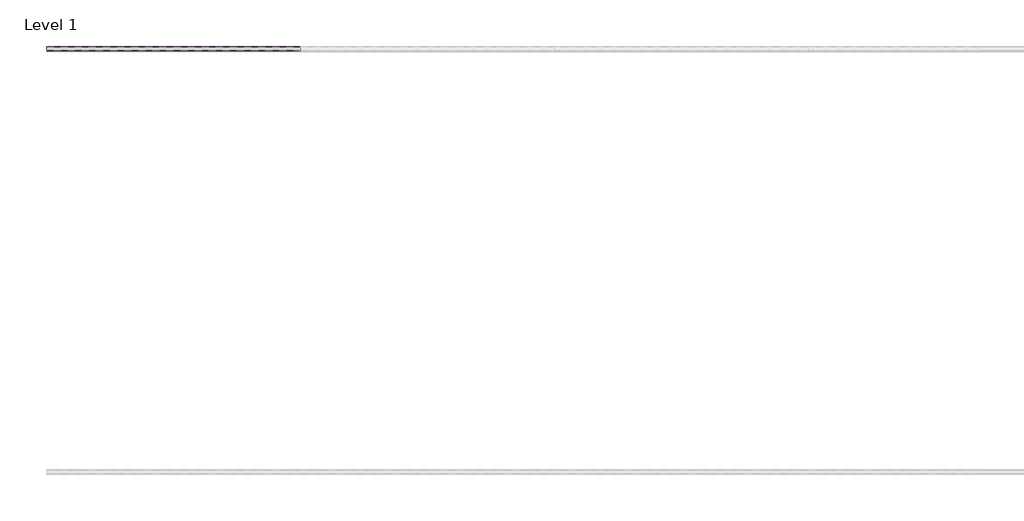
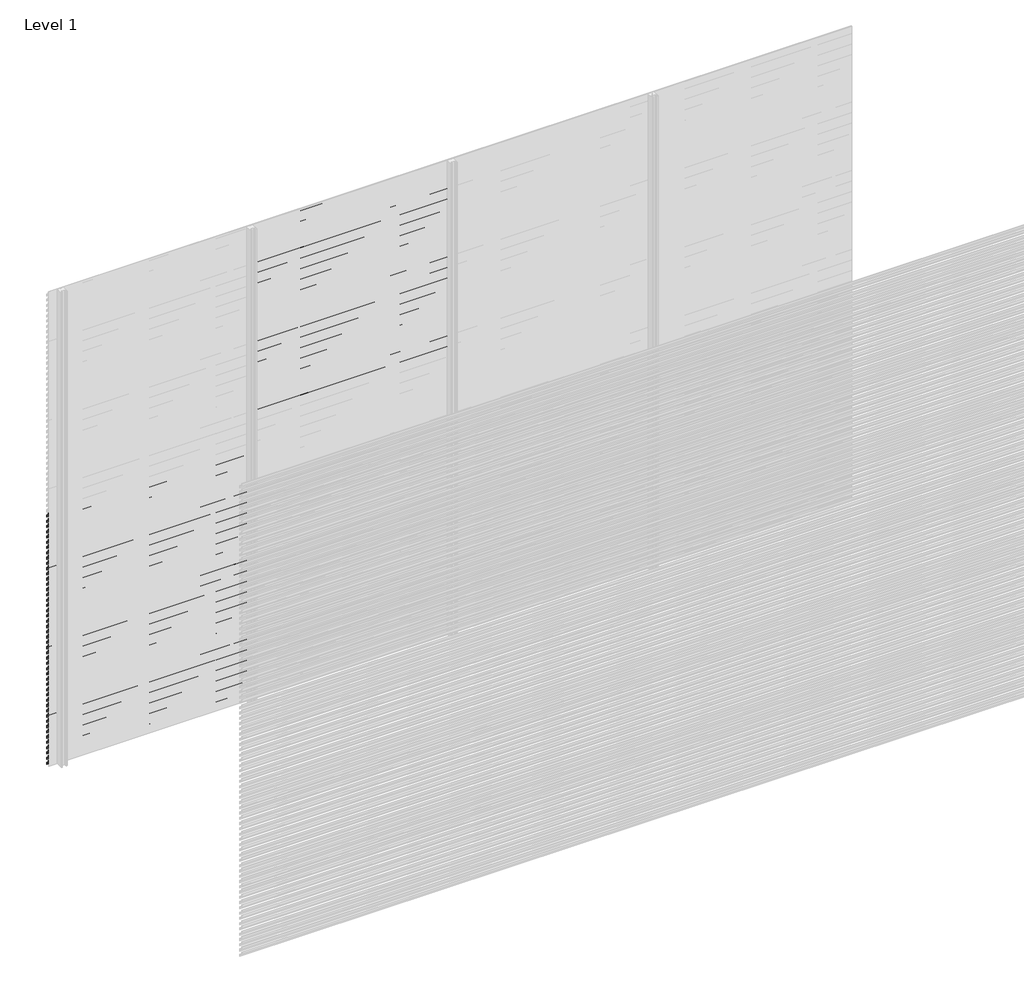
# One storey, part 75 of 507: 84 proxies.
"""IFC4 building model written with IfcOpenShell, lengths in millimetres."""

import ifcopenshell
import ifcopenshell.guid

model = None  # the IFC model being written
_history = None  # IfcOwnerHistory: only IFC2X3 demands one
_inside = {}  # id of a spatial element -> (the spatial element, [elements in it])
_under = {}  # id of a project, library or spatial element -> (it, [spatial elements below it])
_declared = {}  # id of a project -> (the project, [libraries it declares])
_typed = {}  # id of a type object -> (the type object, [elements of that type])
_made_of = {}  # id of a material, layer set ... -> (it, [elements and type objects made of it])


def new_model(schema):
    """Start an empty IFC model of exactly this schema.

    Asked for "IFC4X3", IfcOpenShell would pick the latest addendum, in which some entities
    have other attributes; the version numbers below select the first issue.
    IFC2X3 requires an IfcOwnerHistory on every rooted entity: one is made here for all.
    """
    global model, _history
    if schema == "IFC4X3":
        model = ifcopenshell.file(schema_version=(4, 3, 0, 0))
    else:
        model = ifcopenshell.file(schema=schema)
    _inside.clear()
    _under.clear()
    _declared.clear()
    _typed.clear()
    _made_of.clear()
    _history = None
    if model.schema == "IFC2X3":
        org = make("IfcOrganization", Name="unknown")
        user = make(
            "IfcPersonAndOrganization",
            ThePerson=make("IfcPerson", FamilyName="unknown"),
            TheOrganization=org,
        )
        app = make(
            "IfcApplication",
            ApplicationDeveloper=org,
            Version="unknown",
            ApplicationFullName="unknown",
            ApplicationIdentifier="unknown",
        )
        _history = make(
            "IfcOwnerHistory",
            OwningUser=user,
            OwningApplication=app,
            ChangeAction="ADDED",
            CreationDate=0,
        )
    return model


def make(cls, **values):
    """One entity of the class cls with the attributes given. An attribute that is None is left unset."""
    return model.create_entity(
        cls, **{name: value for name, value in values.items() if value is not None}
    )


def rooted(cls, **values):
    """An entity with a GlobalId (a new one), such as an element, a storey or a relation."""
    return make(cls, GlobalId=ifcopenshell.guid.new(), OwnerHistory=_history, **values)


def si_unit(unit_type, name, prefix=None):
    """IfcSIUnit, for example si_unit("LENGTHUNIT", "METRE", prefix="MILLI")."""
    return make("IfcSIUnit", UnitType=unit_type, Prefix=prefix, Name=name)


def assignment(units):
    """IfcUnitAssignment: the units of a project."""
    return None if units is None else make("IfcUnitAssignment", Units=units)


def point(xyz):
    """IfcCartesianPoint."""
    return None if xyz is None else make("IfcCartesianPoint", Coordinates=xyz)


def direction(xyz):
    """IfcDirection."""
    return None if xyz is None else make("IfcDirection", DirectionRatios=xyz)


def frame(location, z_axis=None, x_axis=None):
    """IfcAxis2Placement3D, a coordinate frame: its origin and axes. An axis left out is left unset."""
    return make(
        "IfcAxis2Placement3D",
        Location=point(location),
        Axis=direction(z_axis),
        RefDirection=direction(x_axis),
    )


def origin():
    """The frame at (0, 0, 0) with its axes left unset."""
    return frame((0.0, 0.0, 0.0))


def place(relative_to, where):
    """IfcLocalPlacement: puts the frame where relative to a parent placement (None: the world)."""
    return make(
        "IfcLocalPlacement", PlacementRelTo=relative_to, RelativePlacement=where
    )


def context(
    kind, dimensions, precision=None, world=None, true_north=None, identifier=None
):
    """IfcGeometricRepresentationContext, for example the 3D "Model" context."""
    return make(
        "IfcGeometricRepresentationContext",
        ContextIdentifier=identifier,
        ContextType=kind,
        CoordinateSpaceDimension=dimensions,
        Precision=precision,
        WorldCoordinateSystem=world,
        TrueNorth=true_north,
    )


def project(units=None, contexts=None):
    """IfcProject with its units and contexts."""
    return rooted(
        "IfcProject",
        Name="project",
        RepresentationContexts=contexts,
        UnitsInContext=assignment(units),
    )


def spatial(cls, under=None, at=None, **own):
    """A site, building, storey or space (cls), placed at a placement, below another one or the project."""
    s = rooted(cls, ObjectPlacement=at, **own)
    if under is not None:
        _under.setdefault(under.id(), (under, []))[1].append(s)
    return s


def polyline(points):
    """IfcPolyline through the points."""
    return make("IfcPolyline", Points=[point(p) for p in points])


def outline(outer, holes=None, kind="AREA"):
    """IfcArbitraryClosedProfileDef: a profile drawn as a closed curve; with holes, ...WithVoids."""
    if holes is None:
        return make("IfcArbitraryClosedProfileDef", ProfileType=kind, OuterCurve=outer)
    return make(
        "IfcArbitraryProfileDefWithVoids",
        ProfileType=kind,
        OuterCurve=outer,
        InnerCurves=holes,
    )


def extrude(swept, where, along, depth):
    """IfcExtrudedAreaSolid: the profile swept, set in the frame where, extruded along a direction by depth."""
    return make(
        "IfcExtrudedAreaSolid",
        SweptArea=swept,
        Position=where,
        ExtrudedDirection=direction(along),
        Depth=depth,
    )


def shape(context_of_items, identifier, shape_type, items):
    """IfcShapeRepresentation: the items that make up one representation, for example the "Body"."""
    return make(
        "IfcShapeRepresentation",
        ContextOfItems=context_of_items,
        RepresentationIdentifier=identifier,
        RepresentationType=shape_type,
        Items=items,
    )


def made_of(thing, what):
    """Note that an element or type object is made of a material, layer set ...; save() writes the relation."""
    if what is not None:
        _made_of.setdefault(what.id(), (what, []))[1].append(thing)
    return thing


def element(
    cls,
    number,
    at=None,
    inside=None,
    cuts=None,
    type_object=None,
    material=None,
    context=None,
    identifier="Body",
    shape_type=None,
    held_by="IfcProductDefinitionShape",
    body=None,
    shapes=None,
    **own,
):
    """One element of the class cls, such as IfcWall. Its Tag is "e" and its number.

    at: its placement. inside: the storey or other place that contains it. cuts: it is an
    opening in that element (IfcRelVoidsElement). A single representation is given by context,
    identifier, shape_type and body (its items); several are given by shapes. held_by: the class
    of the entity that holds the representations. save() writes the other relations.
    """
    e = rooted(cls, Tag="e%d" % number, ObjectPlacement=at, **own)
    if body is not None:
        shapes = [shape(context, identifier, shape_type, body)]
    if shapes is not None:
        e.Representation = make(held_by, Representations=shapes)
    if inside is not None:
        _inside.setdefault(inside.id(), (inside, []))[1].append(e)
    if cuts is not None:
        rooted(
            "IfcRelVoidsElement", RelatingBuildingElement=cuts, RelatedOpeningElement=e
        )
    if type_object is not None:
        _typed.setdefault(type_object.id(), (type_object, []))[1].append(e)
    return made_of(e, material)


def aggregate(whole, parts):
    """IfcRelAggregates: a whole, such as a stair, and the parts it consists of."""
    return rooted("IfcRelAggregates", RelatingObject=whole, RelatedObjects=parts)


def save(model, path):
    """Write the relations noted so far, then the file.

    IfcRelAggregates (storeys below a building ...), IfcRelContainedInSpatialStructure (elements
    in a storey), IfcRelDefinesByType, IfcRelAssociatesMaterial and IfcRelDeclares: one each for
    every whole, place, type object, material and project.
    """
    for whole, parts in _under.values():
        aggregate(whole, parts)
    for where, things in _inside.values():
        rooted(
            "IfcRelContainedInSpatialStructure",
            RelatedElements=things,
            RelatingStructure=where,
        )
    for kind, things in _typed.values():
        rooted("IfcRelDefinesByType", RelatedObjects=things, RelatingType=kind)
    for what, things in _made_of.values():
        rooted("IfcRelAssociatesMaterial", RelatedObjects=things, RelatingMaterial=what)
    for by, libraries in _declared.values():
        rooted("IfcRelDeclares", RelatingContext=by, RelatedDefinitions=libraries)
    model.write(path)


model = new_model("IFC4")

# Units and contexts
model_context = context("Model", 3, world=origin())
ifc_project = project(units=[si_unit("LENGTHUNIT", "METRE", prefix="MILLI")], contexts=[model_context])

# Site, building, storey
site = spatial("IfcSite", under=ifc_project)
building = spatial("IfcBuilding", under=site)
storey = spatial("IfcBuildingStorey", under=building, Name="Level 1", Elevation=0.0)

# Proxies
placement = place(None, origin())
element("IfcBuildingElementProxy", 1, Name="Wall Sweeps", at=placement, inside=storey, context=model_context, shape_type="SweptSolid", body=[
    extrude(outline(polyline([(59003.4540136, 1574.4), (59003.4540136, 1560.9), (59002.2040136, 1561.6216933), (59002.2040136, 1573.6782281), (58983.0540136, 1584.7345698), (58983.0540136, 1598.4), (58984.3040136, 1598.4), (58984.3040136, 1585.4562577), (59003.4540136, 1574.4)])), frame((44966.6208097, 0.0, 0.0), z_axis=(1.0, 0.0, 0.0), x_axis=(0.0, 1.0, 0.0)), (0.0, 0.0, 1.0), 1200.0000002),
])
element("IfcBuildingElementProxy", 2, Name="Wall Sweeps", at=placement, inside=storey, context=model_context, shape_type="SweptSolid", body=[
    extrude(outline(polyline([(59003.4540136, 1541.1), (59003.4540136, 1527.6), (59002.2040136, 1528.3216933), (59002.2040136, 1540.3782281), (58983.0540136, 1551.4345698), (58983.0540136, 1565.1), (58984.3040136, 1565.1), (58984.3040136, 1552.1562577), (59003.4540136, 1541.1)])), frame((44966.6208097, 0.0, 0.0), z_axis=(1.0, 0.0, 0.0), x_axis=(0.0, 1.0, 0.0)), (0.0, 0.0, 1.0), 1200.0000002),
])
element("IfcBuildingElementProxy", 3, Name="Wall Sweeps", at=placement, inside=storey, context=model_context, shape_type="SweptSolid", body=[
    extrude(outline(polyline([(59003.4540136, 1507.8), (59003.4540136, 1494.3), (59002.2040136, 1495.0216933), (59002.2040136, 1507.0782281), (58983.0540136, 1518.1345698), (58983.0540136, 1531.8), (58984.3040136, 1531.8), (58984.3040136, 1518.8562577), (59003.4540136, 1507.8)])), frame((44966.6208097, 0.0, 0.0), z_axis=(1.0, 0.0, 0.0), x_axis=(0.0, 1.0, 0.0)), (0.0, 0.0, 1.0), 1200.0000002),
])
element("IfcBuildingElementProxy", 4, Name="Wall Sweeps", at=placement, inside=storey, context=model_context, shape_type="SweptSolid", body=[
    extrude(outline(polyline([(59003.4540136, 1474.5), (59003.4540136, 1461.0), (59002.2040136, 1461.7216933), (59002.2040136, 1473.7782281), (58983.0540136, 1484.8345698), (58983.0540136, 1498.5), (58984.3040136, 1498.5), (58984.3040136, 1485.5562577), (59003.4540136, 1474.5)])), frame((44966.6208097, 0.0, 0.0), z_axis=(1.0, 0.0, 0.0), x_axis=(0.0, 1.0, 0.0)), (0.0, 0.0, 1.0), 1200.0000002),
])
element("IfcBuildingElementProxy", 5, Name="Wall Sweeps", at=placement, inside=storey, context=model_context, shape_type="SweptSolid", body=[
    extrude(outline(polyline([(59003.4540136, 1441.2), (59003.4540136, 1427.7), (59002.2040136, 1428.4216933), (59002.2040136, 1440.4782281), (58983.0540136, 1451.5345698), (58983.0540136, 1465.2), (58984.3040136, 1465.2), (58984.3040136, 1452.2562577), (59003.4540136, 1441.2)])), frame((44966.6208097, 0.0, 0.0), z_axis=(1.0, 0.0, 0.0), x_axis=(0.0, 1.0, 0.0)), (0.0, 0.0, 1.0), 1200.0000002),
])
element("IfcBuildingElementProxy", 6, Name="Wall Sweeps", at=placement, inside=storey, context=model_context, shape_type="SweptSolid", body=[
    extrude(outline(polyline([(59003.4540136, 1407.9), (59003.4540136, 1394.4), (59002.2040136, 1395.1216933), (59002.2040136, 1407.1782281), (58983.0540136, 1418.2345698), (58983.0540136, 1431.9), (58984.3040136, 1431.9), (58984.3040136, 1418.9562577), (59003.4540136, 1407.9)])), frame((44966.6208097, 0.0, 0.0), z_axis=(1.0, 0.0, 0.0), x_axis=(0.0, 1.0, 0.0)), (0.0, 0.0, 1.0), 1200.0000002),
])
element("IfcBuildingElementProxy", 7, Name="Wall Sweeps", at=placement, inside=storey, context=model_context, shape_type="SweptSolid", body=[
    extrude(outline(polyline([(59003.4540136, 1374.6), (59003.4540136, 1361.1), (59002.2040136, 1361.8216933), (59002.2040136, 1373.8782281), (58983.0540136, 1384.9345698), (58983.0540136, 1398.6), (58984.3040136, 1398.6), (58984.3040136, 1385.6562577), (59003.4540136, 1374.6)])), frame((44966.6208097, 0.0, 0.0), z_axis=(1.0, 0.0, 0.0), x_axis=(0.0, 1.0, 0.0)), (0.0, 0.0, 1.0), 1200.0000002),
])
element("IfcBuildingElementProxy", 8, Name="Wall Sweeps", at=placement, inside=storey, context=model_context, shape_type="SweptSolid", body=[
    extrude(outline(polyline([(59003.4540136, 1341.3), (59003.4540136, 1327.8), (59002.2040136, 1328.5216933), (59002.2040136, 1340.5782281), (58983.0540136, 1351.6345698), (58983.0540136, 1365.3), (58984.3040136, 1365.3), (58984.3040136, 1352.3562577), (59003.4540136, 1341.3)])), frame((44966.6208097, 0.0, 0.0), z_axis=(1.0, 0.0, 0.0), x_axis=(0.0, 1.0, 0.0)), (0.0, 0.0, 1.0), 1200.0000002),
])
element("IfcBuildingElementProxy", 9, Name="Wall Sweeps", at=placement, inside=storey, context=model_context, shape_type="SweptSolid", body=[
    extrude(outline(polyline([(59003.4540136, 1308.0), (59003.4540136, 1294.5), (59002.2040136, 1295.2216933), (59002.2040136, 1307.2782281), (58983.0540136, 1318.3345698), (58983.0540136, 1332.0), (58984.3040136, 1332.0), (58984.3040136, 1319.0562577), (59003.4540136, 1308.0)])), frame((44966.6208097, 0.0, 0.0), z_axis=(1.0, 0.0, 0.0), x_axis=(0.0, 1.0, 0.0)), (0.0, 0.0, 1.0), 1200.0000002),
])
element("IfcBuildingElementProxy", 10, Name="Wall Sweeps", at=placement, inside=storey, context=model_context, shape_type="SweptSolid", body=[
    extrude(outline(polyline([(59003.4540136, 1274.7), (59003.4540136, 1261.2), (59002.2040136, 1261.9216933), (59002.2040136, 1273.9782281), (58983.0540136, 1285.0345698), (58983.0540136, 1298.7), (58984.3040136, 1298.7), (58984.3040136, 1285.7562577), (59003.4540136, 1274.7)])), frame((44966.6208097, 0.0, 0.0), z_axis=(1.0, 0.0, 0.0), x_axis=(0.0, 1.0, 0.0)), (0.0, 0.0, 1.0), 1200.0000002),
])
element("IfcBuildingElementProxy", 11, Name="Wall Sweeps", at=placement, inside=storey, context=model_context, shape_type="SweptSolid", body=[
    extrude(outline(polyline([(59003.4540136, 1241.4), (59003.4540136, 1227.9), (59002.2040136, 1228.6216933), (59002.2040136, 1240.6782281), (58983.0540136, 1251.7345698), (58983.0540136, 1265.4), (58984.3040136, 1265.4), (58984.3040136, 1252.4562577), (59003.4540136, 1241.4)])), frame((44966.6208097, 0.0, 0.0), z_axis=(1.0, 0.0, 0.0), x_axis=(0.0, 1.0, 0.0)), (0.0, 0.0, 1.0), 1200.0000002),
])
element("IfcBuildingElementProxy", 12, Name="Wall Sweeps", at=placement, inside=storey, context=model_context, shape_type="SweptSolid", body=[
    extrude(outline(polyline([(59003.4540136, 1208.1), (59003.4540136, 1194.6), (59002.2040136, 1195.3216933), (59002.2040136, 1207.3782281), (58983.0540136, 1218.4345698), (58983.0540136, 1232.1), (58984.3040136, 1232.1), (58984.3040136, 1219.1562577), (59003.4540136, 1208.1)])), frame((44966.6208097, 0.0, 0.0), z_axis=(1.0, 0.0, 0.0), x_axis=(0.0, 1.0, 0.0)), (0.0, 0.0, 1.0), 1200.0000002),
])
element("IfcBuildingElementProxy", 13, Name="Wall Sweeps", at=placement, inside=storey, context=model_context, shape_type="SweptSolid", body=[
    extrude(outline(polyline([(59003.4540136, 1174.8), (59003.4540136, 1161.3), (59002.2040136, 1162.0216933), (59002.2040136, 1174.0782281), (58983.0540136, 1185.1345698), (58983.0540136, 1198.8), (58984.3040136, 1198.8), (58984.3040136, 1185.8562577), (59003.4540136, 1174.8)])), frame((44966.6208097, 0.0, 0.0), z_axis=(1.0, 0.0, 0.0), x_axis=(0.0, 1.0, 0.0)), (0.0, 0.0, 1.0), 1200.0000002),
])
element("IfcBuildingElementProxy", 14, Name="Wall Sweeps", at=placement, inside=storey, context=model_context, shape_type="SweptSolid", body=[
    extrude(outline(polyline([(59003.4540136, 1141.5), (59003.4540136, 1128.0), (59002.2040136, 1128.7216933), (59002.2040136, 1140.7782281), (58983.0540136, 1151.8345698), (58983.0540136, 1165.5), (58984.3040136, 1165.5), (58984.3040136, 1152.5562577), (59003.4540136, 1141.5)])), frame((44966.6208097, 0.0, 0.0), z_axis=(1.0, 0.0, 0.0), x_axis=(0.0, 1.0, 0.0)), (0.0, 0.0, 1.0), 1200.0000002),
])
element("IfcBuildingElementProxy", 15, Name="Wall Sweeps", at=placement, inside=storey, context=model_context, shape_type="SweptSolid", body=[
    extrude(outline(polyline([(59003.4540136, 1108.2), (59003.4540136, 1094.7), (59002.2040136, 1095.4216933), (59002.2040136, 1107.4782281), (58983.0540136, 1118.5345698), (58983.0540136, 1132.2), (58984.3040136, 1132.2), (58984.3040136, 1119.2562577), (59003.4540136, 1108.2)])), frame((44966.6208097, 0.0, 0.0), z_axis=(1.0, 0.0, 0.0), x_axis=(0.0, 1.0, 0.0)), (0.0, 0.0, 1.0), 1200.0000002),
])
element("IfcBuildingElementProxy", 16, Name="Wall Sweeps", at=placement, inside=storey, context=model_context, shape_type="SweptSolid", body=[
    extrude(outline(polyline([(59003.4540136, 1074.9), (59003.4540136, 1061.4), (59002.2040136, 1062.1216933), (59002.2040136, 1074.1782281), (58983.0540136, 1085.2345698), (58983.0540136, 1098.9), (58984.3040136, 1098.9), (58984.3040136, 1085.9562577), (59003.4540136, 1074.9)])), frame((44966.6208097, 0.0, 0.0), z_axis=(1.0, 0.0, 0.0), x_axis=(0.0, 1.0, 0.0)), (0.0, 0.0, 1.0), 1200.0000002),
])
element("IfcBuildingElementProxy", 17, Name="Wall Sweeps", at=placement, inside=storey, context=model_context, shape_type="SweptSolid", body=[
    extrude(outline(polyline([(59003.4540136, 1041.6), (59003.4540136, 1028.1), (59002.2040136, 1028.8216933), (59002.2040136, 1040.8782281), (58983.0540136, 1051.9345698), (58983.0540136, 1065.6), (58984.3040136, 1065.6), (58984.3040136, 1052.6562577), (59003.4540136, 1041.6)])), frame((44966.6208097, 0.0, 0.0), z_axis=(1.0, 0.0, 0.0), x_axis=(0.0, 1.0, 0.0)), (0.0, 0.0, 1.0), 1200.0000002),
])
element("IfcBuildingElementProxy", 18, Name="Wall Sweeps", at=placement, inside=storey, context=model_context, shape_type="SweptSolid", body=[
    extrude(outline(polyline([(59003.4540136, 1008.3), (59003.4540136, 994.8), (59002.2040136, 995.5216933), (59002.2040136, 1007.5782281), (58983.0540136, 1018.6345698), (58983.0540136, 1032.3), (58984.3040136, 1032.3), (58984.3040136, 1019.3562577), (59003.4540136, 1008.3)])), frame((44966.6208097, 0.0, 0.0), z_axis=(1.0, 0.0, 0.0), x_axis=(0.0, 1.0, 0.0)), (0.0, 0.0, 1.0), 1200.0000002),
])
element("IfcBuildingElementProxy", 19, Name="Wall Sweeps", at=placement, inside=storey, context=model_context, shape_type="SweptSolid", body=[
    extrude(outline(polyline([(59003.4540136, 975.0), (59003.4540136, 961.5), (59002.2040136, 962.2216933), (59002.2040136, 974.2782281), (58983.0540136, 985.3345698), (58983.0540136, 999.0), (58984.3040136, 999.0), (58984.3040136, 986.0562577), (59003.4540136, 975.0)])), frame((44966.6208097, 0.0, 0.0), z_axis=(1.0, 0.0, 0.0), x_axis=(0.0, 1.0, 0.0)), (0.0, 0.0, 1.0), 1200.0000002),
])
element("IfcBuildingElementProxy", 20, Name="Wall Sweeps", at=placement, inside=storey, context=model_context, shape_type="SweptSolid", body=[
    extrude(outline(polyline([(59003.4540136, 941.7), (59003.4540136, 928.2), (59002.2040136, 928.9216933), (59002.2040136, 940.9782281), (58983.0540136, 952.0345698), (58983.0540136, 965.7), (58984.3040136, 965.7), (58984.3040136, 952.7562577), (59003.4540136, 941.7)])), frame((44966.6208097, 0.0, 0.0), z_axis=(1.0, 0.0, 0.0), x_axis=(0.0, 1.0, 0.0)), (0.0, 0.0, 1.0), 1200.0000002),
])
element("IfcBuildingElementProxy", 21, Name="Wall Sweeps", at=placement, inside=storey, context=model_context, shape_type="SweptSolid", body=[
    extrude(outline(polyline([(59003.4540136, 908.4), (59003.4540136, 894.9), (59002.2040136, 895.6216933), (59002.2040136, 907.6782281), (58983.0540136, 918.7345698), (58983.0540136, 932.4), (58984.3040136, 932.4), (58984.3040136, 919.4562577), (59003.4540136, 908.4)])), frame((44966.6208097, 0.0, 0.0), z_axis=(1.0, 0.0, 0.0), x_axis=(0.0, 1.0, 0.0)), (0.0, 0.0, 1.0), 1200.0000002),
])
element("IfcBuildingElementProxy", 22, Name="Wall Sweeps", at=placement, inside=storey, context=model_context, shape_type="SweptSolid", body=[
    extrude(outline(polyline([(59003.4540136, 875.1), (59003.4540136, 861.6), (59002.2040136, 862.3216933), (59002.2040136, 874.3782281), (58983.0540136, 885.4345698), (58983.0540136, 899.1), (58984.3040136, 899.1), (58984.3040136, 886.1562577), (59003.4540136, 875.1)])), frame((44966.6208097, 0.0, 0.0), z_axis=(1.0, 0.0, 0.0), x_axis=(0.0, 1.0, 0.0)), (0.0, 0.0, 1.0), 1200.0000002),
])
element("IfcBuildingElementProxy", 23, Name="Wall Sweeps", at=placement, inside=storey, context=model_context, shape_type="SweptSolid", body=[
    extrude(outline(polyline([(59003.4540136, 841.8), (59003.4540136, 828.3), (59002.2040136, 829.0216933), (59002.2040136, 841.0782281), (58983.0540136, 852.1345698), (58983.0540136, 865.8), (58984.3040136, 865.8), (58984.3040136, 852.8562577), (59003.4540136, 841.8)])), frame((44966.6208097, 0.0, 0.0), z_axis=(1.0, 0.0, 0.0), x_axis=(0.0, 1.0, 0.0)), (0.0, 0.0, 1.0), 1200.0000002),
])
element("IfcBuildingElementProxy", 24, Name="Wall Sweeps", at=placement, inside=storey, context=model_context, shape_type="SweptSolid", body=[
    extrude(outline(polyline([(59003.4540136, 808.5), (59003.4540136, 795.0), (59002.2040136, 795.7216933), (59002.2040136, 807.7782281), (58983.0540136, 818.8345698), (58983.0540136, 832.5), (58984.3040136, 832.5), (58984.3040136, 819.5562577), (59003.4540136, 808.5)])), frame((44966.6208097, 0.0, 0.0), z_axis=(1.0, 0.0, 0.0), x_axis=(0.0, 1.0, 0.0)), (0.0, 0.0, 1.0), 1200.0000002),
])
element("IfcBuildingElementProxy", 25, Name="Wall Sweeps", at=placement, inside=storey, context=model_context, shape_type="SweptSolid", body=[
    extrude(outline(polyline([(59003.4540136, 775.2), (59003.4540136, 761.7), (59002.2040136, 762.4216933), (59002.2040136, 774.4782281), (58983.0540136, 785.5345698), (58983.0540136, 799.2), (58984.3040136, 799.2), (58984.3040136, 786.2562577), (59003.4540136, 775.2)])), frame((44966.6208097, 0.0, 0.0), z_axis=(1.0, 0.0, 0.0), x_axis=(0.0, 1.0, 0.0)), (0.0, 0.0, 1.0), 1200.0000002),
])
element("IfcBuildingElementProxy", 26, Name="Wall Sweeps", at=placement, inside=storey, context=model_context, shape_type="SweptSolid", body=[
    extrude(outline(polyline([(59003.4540136, 741.9), (59003.4540136, 728.4), (59002.2040136, 729.1216933), (59002.2040136, 741.1782281), (58983.0540136, 752.2345698), (58983.0540136, 765.9), (58984.3040136, 765.9), (58984.3040136, 752.9562577), (59003.4540136, 741.9)])), frame((44966.6208097, 0.0, 0.0), z_axis=(1.0, 0.0, 0.0), x_axis=(0.0, 1.0, 0.0)), (0.0, 0.0, 1.0), 1200.0000002),
])
element("IfcBuildingElementProxy", 27, Name="Wall Sweeps", at=placement, inside=storey, context=model_context, shape_type="SweptSolid", body=[
    extrude(outline(polyline([(59003.4540136, 708.6), (59003.4540136, 695.1), (59002.2040136, 695.8216933), (59002.2040136, 707.8782281), (58983.0540136, 718.9345698), (58983.0540136, 732.6), (58984.3040136, 732.6), (58984.3040136, 719.6562577), (59003.4540136, 708.6)])), frame((44966.6208097, 0.0, 0.0), z_axis=(1.0, 0.0, 0.0), x_axis=(0.0, 1.0, 0.0)), (0.0, 0.0, 1.0), 1200.0000002),
])
element("IfcBuildingElementProxy", 28, Name="Wall Sweeps", at=placement, inside=storey, context=model_context, shape_type="SweptSolid", body=[
    extrude(outline(polyline([(59003.4540136, 675.3), (59003.4540136, 661.8), (59002.2040136, 662.5216933), (59002.2040136, 674.5782281), (58983.0540136, 685.6345698), (58983.0540136, 699.3), (58984.3040136, 699.3), (58984.3040136, 686.3562577), (59003.4540136, 675.3)])), frame((44966.6208097, 0.0, 0.0), z_axis=(1.0, 0.0, 0.0), x_axis=(0.0, 1.0, 0.0)), (0.0, 0.0, 1.0), 1200.0000002),
])
element("IfcBuildingElementProxy", 29, Name="Wall Sweeps", at=placement, inside=storey, context=model_context, shape_type="SweptSolid", body=[
    extrude(outline(polyline([(59003.4540136, 642.0), (59003.4540136, 628.5), (59002.2040136, 629.2216933), (59002.2040136, 641.2782281), (58983.0540136, 652.3345698), (58983.0540136, 666.0), (58984.3040136, 666.0), (58984.3040136, 653.0562577), (59003.4540136, 642.0)])), frame((44966.6208097, 0.0, 0.0), z_axis=(1.0, 0.0, 0.0), x_axis=(0.0, 1.0, 0.0)), (0.0, 0.0, 1.0), 1200.0000002),
])
element("IfcBuildingElementProxy", 30, Name="Wall Sweeps", at=placement, inside=storey, context=model_context, shape_type="SweptSolid", body=[
    extrude(outline(polyline([(59003.4540136, 608.7), (59003.4540136, 595.2), (59002.2040136, 595.9216933), (59002.2040136, 607.9782281), (58983.0540136, 619.0345698), (58983.0540136, 632.7), (58984.3040136, 632.7), (58984.3040136, 619.7562577), (59003.4540136, 608.7)])), frame((44966.6208097, 0.0, 0.0), z_axis=(1.0, 0.0, 0.0), x_axis=(0.0, 1.0, 0.0)), (0.0, 0.0, 1.0), 1200.0000002),
])
element("IfcBuildingElementProxy", 31, Name="Wall Sweeps", at=placement, inside=storey, context=model_context, shape_type="SweptSolid", body=[
    extrude(outline(polyline([(59003.4540136, 575.4), (59003.4540136, 561.9), (59002.2040136, 562.6216933), (59002.2040136, 574.6782281), (58983.0540136, 585.7345698), (58983.0540136, 599.4), (58984.3040136, 599.4), (58984.3040136, 586.4562577), (59003.4540136, 575.4)])), frame((44966.6208097, 0.0, 0.0), z_axis=(1.0, 0.0, 0.0), x_axis=(0.0, 1.0, 0.0)), (0.0, 0.0, 1.0), 1200.0000002),
])
element("IfcBuildingElementProxy", 32, Name="Wall Sweeps", at=placement, inside=storey, context=model_context, shape_type="SweptSolid", body=[
    extrude(outline(polyline([(59003.4540136, 542.1), (59003.4540136, 528.6), (59002.2040136, 529.3216933), (59002.2040136, 541.3782281), (58983.0540136, 552.4345698), (58983.0540136, 566.1), (58984.3040136, 566.1), (58984.3040136, 553.1562577), (59003.4540136, 542.1)])), frame((44966.6208097, 0.0, 0.0), z_axis=(1.0, 0.0, 0.0), x_axis=(0.0, 1.0, 0.0)), (0.0, 0.0, 1.0), 1200.0000002),
])
element("IfcBuildingElementProxy", 33, Name="Wall Sweeps", at=placement, inside=storey, context=model_context, shape_type="SweptSolid", body=[
    extrude(outline(polyline([(59003.4540136, 508.8), (59003.4540136, 495.3), (59002.2040136, 496.0216933), (59002.2040136, 508.0782281), (58983.0540136, 519.1345698), (58983.0540136, 532.8), (58984.3040136, 532.8), (58984.3040136, 519.8562577), (59003.4540136, 508.8)])), frame((44966.6208097, 0.0, 0.0), z_axis=(1.0, 0.0, 0.0), x_axis=(0.0, 1.0, 0.0)), (0.0, 0.0, 1.0), 1200.0000002),
])
element("IfcBuildingElementProxy", 34, Name="Wall Sweeps", at=placement, inside=storey, context=model_context, shape_type="SweptSolid", body=[
    extrude(outline(polyline([(59003.4540136, 475.5), (59003.4540136, 462.0), (59002.2040136, 462.7216933), (59002.2040136, 474.7782281), (58983.0540136, 485.8345698), (58983.0540136, 499.5), (58984.3040136, 499.5), (58984.3040136, 486.5562577), (59003.4540136, 475.5)])), frame((44966.6208097, 0.0, 0.0), z_axis=(1.0, 0.0, 0.0), x_axis=(0.0, 1.0, 0.0)), (0.0, 0.0, 1.0), 1200.0000002),
])
element("IfcBuildingElementProxy", 35, Name="Wall Sweeps", at=placement, inside=storey, context=model_context, shape_type="SweptSolid", body=[
    extrude(outline(polyline([(59003.4540136, 442.2), (59003.4540136, 428.7), (59002.2040136, 429.4216933), (59002.2040136, 441.4782281), (58983.0540136, 452.5345698), (58983.0540136, 466.2), (58984.3040136, 466.2), (58984.3040136, 453.2562577), (59003.4540136, 442.2)])), frame((44966.6208097, 0.0, 0.0), z_axis=(1.0, 0.0, 0.0), x_axis=(0.0, 1.0, 0.0)), (0.0, 0.0, 1.0), 1200.0000002),
])
element("IfcBuildingElementProxy", 36, Name="Wall Sweeps", at=placement, inside=storey, context=model_context, shape_type="SweptSolid", body=[
    extrude(outline(polyline([(59003.4540136, 408.9), (59003.4540136, 395.4), (59002.2040136, 396.1216933), (59002.2040136, 408.1782281), (58983.0540136, 419.2345698), (58983.0540136, 432.9), (58984.3040136, 432.9), (58984.3040136, 419.9562577), (59003.4540136, 408.9)])), frame((44966.6208097, 0.0, 0.0), z_axis=(1.0, 0.0, 0.0), x_axis=(0.0, 1.0, 0.0)), (0.0, 0.0, 1.0), 1200.0000002),
])
element("IfcBuildingElementProxy", 37, Name="Wall Sweeps", at=placement, inside=storey, context=model_context, shape_type="SweptSolid", body=[
    extrude(outline(polyline([(59003.4540136, 375.6), (59003.4540136, 362.1), (59002.2040136, 362.8216933), (59002.2040136, 374.8782281), (58983.0540136, 385.9345698), (58983.0540136, 399.6), (58984.3040136, 399.6), (58984.3040136, 386.6562577), (59003.4540136, 375.6)])), frame((44966.6208097, 0.0, 0.0), z_axis=(1.0, 0.0, 0.0), x_axis=(0.0, 1.0, 0.0)), (0.0, 0.0, 1.0), 1200.0000002),
])
element("IfcBuildingElementProxy", 38, Name="Wall Sweeps", at=placement, inside=storey, context=model_context, shape_type="SweptSolid", body=[
    extrude(outline(polyline([(59003.4540136, 342.3), (59003.4540136, 328.8), (59002.2040136, 329.5216933), (59002.2040136, 341.5782281), (58983.0540136, 352.6345698), (58983.0540136, 366.3), (58984.3040136, 366.3), (58984.3040136, 353.3562577), (59003.4540136, 342.3)])), frame((44966.6208097, 0.0, 0.0), z_axis=(1.0, 0.0, 0.0), x_axis=(0.0, 1.0, 0.0)), (0.0, 0.0, 1.0), 1200.0000002),
])
element("IfcBuildingElementProxy", 39, Name="Wall Sweeps", at=placement, inside=storey, context=model_context, shape_type="SweptSolid", body=[
    extrude(outline(polyline([(59003.4540136, 309.0), (59003.4540136, 295.5), (59002.2040136, 296.2216933), (59002.2040136, 308.2782281), (58983.0540136, 319.3345698), (58983.0540136, 333.0), (58984.3040136, 333.0), (58984.3040136, 320.0562577), (59003.4540136, 309.0)])), frame((44966.6208097, 0.0, 0.0), z_axis=(1.0, 0.0, 0.0), x_axis=(0.0, 1.0, 0.0)), (0.0, 0.0, 1.0), 1200.0000002),
])
element("IfcBuildingElementProxy", 40, Name="Wall Sweeps", at=placement, inside=storey, context=model_context, shape_type="SweptSolid", body=[
    extrude(outline(polyline([(59003.4540136, 275.7), (59003.4540136, 262.2), (59002.2040136, 262.9216933), (59002.2040136, 274.9782281), (58983.0540136, 286.0345698), (58983.0540136, 299.7), (58984.3040136, 299.7), (58984.3040136, 286.7562577), (59003.4540136, 275.7)])), frame((44966.6208097, 0.0, 0.0), z_axis=(1.0, 0.0, 0.0), x_axis=(0.0, 1.0, 0.0)), (0.0, 0.0, 1.0), 1200.0000002),
])
element("IfcBuildingElementProxy", 41, Name="Wall Sweeps", at=placement, inside=storey, context=model_context, shape_type="SweptSolid", body=[
    extrude(outline(polyline([(59003.4540136, 242.4), (59003.4540136, 228.9), (59002.2040136, 229.6216933), (59002.2040136, 241.6782281), (58983.0540136, 252.7345698), (58983.0540136, 266.4), (58984.3040136, 266.4), (58984.3040136, 253.4562577), (59003.4540136, 242.4)])), frame((44966.6208097, 0.0, 0.0), z_axis=(1.0, 0.0, 0.0), x_axis=(0.0, 1.0, 0.0)), (0.0, 0.0, 1.0), 1200.0000002),
])
element("IfcBuildingElementProxy", 42, Name="Wall Sweeps", at=placement, inside=storey, context=model_context, shape_type="SweptSolid", body=[
    extrude(outline(polyline([(59003.4540136, 209.1), (59003.4540136, 195.6), (59002.2040136, 196.3216933), (59002.2040136, 208.3782281), (58983.0540136, 219.4345698), (58983.0540136, 233.1), (58984.3040136, 233.1), (58984.3040136, 220.1562577), (59003.4540136, 209.1)])), frame((44966.6208097, 0.0, 0.0), z_axis=(1.0, 0.0, 0.0), x_axis=(0.0, 1.0, 0.0)), (0.0, 0.0, 1.0), 1200.0000002),
])
element("IfcBuildingElementProxy", 43, Name="Wall Sweeps", at=placement, inside=storey, context=model_context, shape_type="SweptSolid", body=[
    extrude(outline(polyline([(59003.4540136, 175.8), (59003.4540136, 162.3), (59002.2040136, 163.0216933), (59002.2040136, 175.0782281), (58983.0540136, 186.1345698), (58983.0540136, 199.8), (58984.3040136, 199.8), (58984.3040136, 186.8562577), (59003.4540136, 175.8)])), frame((44966.6208097, 0.0, 0.0), z_axis=(1.0, 0.0, 0.0), x_axis=(0.0, 1.0, 0.0)), (0.0, 0.0, 1.0), 1200.0000002),
])
element("IfcBuildingElementProxy", 44, Name="Wall Sweeps", at=placement, inside=storey, context=model_context, shape_type="SweptSolid", body=[
    extrude(outline(polyline([(59003.4540136, 142.5), (59003.4540136, 129.0), (59002.2040136, 129.7216933), (59002.2040136, 141.7782281), (58983.0540136, 152.8345698), (58983.0540136, 166.5), (58984.3040136, 166.5), (58984.3040136, 153.5562577), (59003.4540136, 142.5)])), frame((44966.6208097, 0.0, 0.0), z_axis=(1.0, 0.0, 0.0), x_axis=(0.0, 1.0, 0.0)), (0.0, 0.0, 1.0), 1200.0000002),
])
element("IfcBuildingElementProxy", 45, Name="Wall Sweeps", at=placement, inside=storey, context=model_context, shape_type="SweptSolid", body=[
    extrude(outline(polyline([(59003.4540136, 109.2), (59003.4540136, 95.7), (59002.2040136, 96.4216933), (59002.2040136, 108.4782281), (58983.0540136, 119.5345698), (58983.0540136, 133.2), (58984.3040136, 133.2), (58984.3040136, 120.2562577), (59003.4540136, 109.2)])), frame((44966.6208097, 0.0, 0.0), z_axis=(1.0, 0.0, 0.0), x_axis=(0.0, 1.0, 0.0)), (0.0, 0.0, 1.0), 1200.0000002),
])
element("IfcBuildingElementProxy", 46, Name="Wall Sweeps", at=placement, inside=storey, context=model_context, shape_type="SweptSolid", body=[
    extrude(outline(polyline([(59003.4540136, 75.9), (59003.4540136, 62.4), (59002.2040136, 63.1216933), (59002.2040136, 75.1782281), (58983.0540136, 86.2345698), (58983.0540136, 99.9), (58984.3040136, 99.9), (58984.3040136, 86.9562577), (59003.4540136, 75.9)])), frame((44966.6208097, 0.0, 0.0), z_axis=(1.0, 0.0, 0.0), x_axis=(0.0, 1.0, 0.0)), (0.0, 0.0, 1.0), 1200.0000002),
])
element("IfcBuildingElementProxy", 47, Name="Wall Sweeps", at=placement, inside=storey, context=model_context, shape_type="SweptSolid", body=[
    extrude(outline(polyline([(59003.4540136, 42.6), (59003.4540136, 29.1), (59002.2040136, 29.8216933), (59002.2040136, 41.8782281), (58983.0540136, 52.9345698), (58983.0540136, 66.6), (58984.3040136, 66.6), (58984.3040136, 53.6562577), (59003.4540136, 42.6)])), frame((44966.6208097, 0.0, 0.0), z_axis=(1.0, 0.0, 0.0), x_axis=(0.0, 1.0, 0.0)), (0.0, 0.0, 1.0), 1200.0000002),
])
element("IfcBuildingElementProxy", 48, Name="Wall Sweeps", at=placement, inside=storey, context=model_context, shape_type="SweptSolid", body=[
    extrude(outline(polyline([(59003.4540136, 9.3), (59003.4540136, -4.2), (59002.2040136, -3.4783067), (59002.2040136, 8.5782281), (58983.0540136, 19.6345698), (58983.0540136, 33.3), (58984.3040136, 33.3), (58984.3040136, 20.3562577), (59003.4540136, 9.3)])), frame((44966.6208097, 0.0, 0.0), z_axis=(1.0, 0.0, 0.0), x_axis=(0.0, 1.0, 0.0)), (0.0, 0.0, 1.0), 1200.0000002),
])
element("IfcBuildingElementProxy", 49, Name="Wall Sweeps", at=placement, inside=storey, context=model_context, shape_type="SweptSolid", body=[
    extrude(outline(polyline([(59003.4540136, 2973.0), (59003.4540136, 2959.5), (59002.2040136, 2960.2216933), (59002.2040136, 2972.2782281), (58983.0540136, 2983.3345698), (58983.0540136, 2997.0), (58984.3040136, 2997.0), (58984.3040136, 2984.0562577), (59003.4540136, 2973.0)])), frame((46166.6208099, 0.0, 0.0), z_axis=(1.0, 0.0, 0.0), x_axis=(0.0, 1.0, 0.0)), (0.0, 0.0, 1.0), 1199.9999999),
])
element("IfcBuildingElementProxy", 50, Name="Wall Sweeps", at=placement, inside=storey, context=model_context, shape_type="SweptSolid", body=[
    extrude(outline(polyline([(59003.4540136, 2939.7), (59003.4540136, 2926.2), (59002.2040136, 2926.9216933), (59002.2040136, 2938.9782281), (58983.0540136, 2950.0345698), (58983.0540136, 2963.7), (58984.3040136, 2963.7), (58984.3040136, 2950.7562577), (59003.4540136, 2939.7)])), frame((46166.6208099, 0.0, 0.0), z_axis=(1.0, 0.0, 0.0), x_axis=(0.0, 1.0, 0.0)), (0.0, 0.0, 1.0), 1199.9999999),
])
element("IfcBuildingElementProxy", 51, Name="Wall Sweeps", at=placement, inside=storey, context=model_context, shape_type="SweptSolid", body=[
    extrude(outline(polyline([(59003.4540136, 2906.4), (59003.4540136, 2892.9), (59002.2040136, 2893.6216933), (59002.2040136, 2905.6782281), (58983.0540136, 2916.7345698), (58983.0540136, 2930.4), (58984.3040136, 2930.4), (58984.3040136, 2917.4562577), (59003.4540136, 2906.4)])), frame((46166.6208099, 0.0, 0.0), z_axis=(1.0, 0.0, 0.0), x_axis=(0.0, 1.0, 0.0)), (0.0, 0.0, 1.0), 1199.9999999),
])
element("IfcBuildingElementProxy", 52, Name="Wall Sweeps", at=placement, inside=storey, context=model_context, shape_type="SweptSolid", body=[
    extrude(outline(polyline([(59003.4540136, 2873.1), (59003.4540136, 2859.6), (59002.2040136, 2860.3216933), (59002.2040136, 2872.3782281), (58983.0540136, 2883.4345698), (58983.0540136, 2897.1), (58984.3040136, 2897.1), (58984.3040136, 2884.1562577), (59003.4540136, 2873.1)])), frame((46166.6208099, 0.0, 0.0), z_axis=(1.0, 0.0, 0.0), x_axis=(0.0, 1.0, 0.0)), (0.0, 0.0, 1.0), 1199.9999999),
])
element("IfcBuildingElementProxy", 53, Name="Wall Sweeps", at=placement, inside=storey, context=model_context, shape_type="SweptSolid", body=[
    extrude(outline(polyline([(59003.4540136, 2839.8), (59003.4540136, 2826.3), (59002.2040136, 2827.0216933), (59002.2040136, 2839.0782281), (58983.0540136, 2850.1345698), (58983.0540136, 2863.8), (58984.3040136, 2863.8), (58984.3040136, 2850.8562577), (59003.4540136, 2839.8)])), frame((46166.6208099, 0.0, 0.0), z_axis=(1.0, 0.0, 0.0), x_axis=(0.0, 1.0, 0.0)), (0.0, 0.0, 1.0), 1199.9999999),
])
element("IfcBuildingElementProxy", 54, Name="Wall Sweeps", at=placement, inside=storey, context=model_context, shape_type="SweptSolid", body=[
    extrude(outline(polyline([(59003.4540136, 2806.5), (59003.4540136, 2793.0), (59002.2040136, 2793.7216933), (59002.2040136, 2805.7782281), (58983.0540136, 2816.8345698), (58983.0540136, 2830.5), (58984.3040136, 2830.5), (58984.3040136, 2817.5562577), (59003.4540136, 2806.5)])), frame((46166.6208099, 0.0, 0.0), z_axis=(1.0, 0.0, 0.0), x_axis=(0.0, 1.0, 0.0)), (0.0, 0.0, 1.0), 1199.9999999),
])
element("IfcBuildingElementProxy", 55, Name="Wall Sweeps", at=placement, inside=storey, context=model_context, shape_type="SweptSolid", body=[
    extrude(outline(polyline([(59003.4540136, 2773.2), (59003.4540136, 2759.7), (59002.2040136, 2760.4216933), (59002.2040136, 2772.4782281), (58983.0540136, 2783.5345698), (58983.0540136, 2797.2), (58984.3040136, 2797.2), (58984.3040136, 2784.2562577), (59003.4540136, 2773.2)])), frame((46166.6208099, 0.0, 0.0), z_axis=(1.0, 0.0, 0.0), x_axis=(0.0, 1.0, 0.0)), (0.0, 0.0, 1.0), 1199.9999999),
])
element("IfcBuildingElementProxy", 56, Name="Wall Sweeps", at=placement, inside=storey, context=model_context, shape_type="SweptSolid", body=[
    extrude(outline(polyline([(59003.4540136, 2739.9), (59003.4540136, 2726.4), (59002.2040136, 2727.1216933), (59002.2040136, 2739.1782281), (58983.0540136, 2750.2345698), (58983.0540136, 2763.9), (58984.3040136, 2763.9), (58984.3040136, 2750.9562577), (59003.4540136, 2739.9)])), frame((46166.6208099, 0.0, 0.0), z_axis=(1.0, 0.0, 0.0), x_axis=(0.0, 1.0, 0.0)), (0.0, 0.0, 1.0), 1199.9999999),
])
element("IfcBuildingElementProxy", 57, Name="Wall Sweeps", at=placement, inside=storey, context=model_context, shape_type="SweptSolid", body=[
    extrude(outline(polyline([(59003.4540136, 2706.6), (59003.4540136, 2693.1), (59002.2040136, 2693.8216933), (59002.2040136, 2705.8782281), (58983.0540136, 2716.9345698), (58983.0540136, 2730.6), (58984.3040136, 2730.6), (58984.3040136, 2717.6562577), (59003.4540136, 2706.6)])), frame((46166.6208099, 0.0, 0.0), z_axis=(1.0, 0.0, 0.0), x_axis=(0.0, 1.0, 0.0)), (0.0, 0.0, 1.0), 1199.9999999),
])
element("IfcBuildingElementProxy", 58, Name="Wall Sweeps", at=placement, inside=storey, context=model_context, shape_type="SweptSolid", body=[
    extrude(outline(polyline([(59003.4540136, 2673.3), (59003.4540136, 2659.8), (59002.2040136, 2660.5216933), (59002.2040136, 2672.5782281), (58983.0540136, 2683.6345698), (58983.0540136, 2697.3), (58984.3040136, 2697.3), (58984.3040136, 2684.3562577), (59003.4540136, 2673.3)])), frame((46166.6208099, 0.0, 0.0), z_axis=(1.0, 0.0, 0.0), x_axis=(0.0, 1.0, 0.0)), (0.0, 0.0, 1.0), 1199.9999999),
])
element("IfcBuildingElementProxy", 59, Name="Wall Sweeps", at=placement, inside=storey, context=model_context, shape_type="SweptSolid", body=[
    extrude(outline(polyline([(59003.4540136, 2640.0), (59003.4540136, 2626.5), (59002.2040136, 2627.2216933), (59002.2040136, 2639.2782281), (58983.0540136, 2650.3345698), (58983.0540136, 2664.0), (58984.3040136, 2664.0), (58984.3040136, 2651.0562577), (59003.4540136, 2640.0)])), frame((46166.6208099, 0.0, 0.0), z_axis=(1.0, 0.0, 0.0), x_axis=(0.0, 1.0, 0.0)), (0.0, 0.0, 1.0), 1199.9999999),
])
element("IfcBuildingElementProxy", 60, Name="Wall Sweeps", at=placement, inside=storey, context=model_context, shape_type="SweptSolid", body=[
    extrude(outline(polyline([(59003.4540136, 2606.7), (59003.4540136, 2593.2), (59002.2040136, 2593.9216933), (59002.2040136, 2605.9782281), (58983.0540136, 2617.0345698), (58983.0540136, 2630.7), (58984.3040136, 2630.7), (58984.3040136, 2617.7562577), (59003.4540136, 2606.7)])), frame((46166.6208099, 0.0, 0.0), z_axis=(1.0, 0.0, 0.0), x_axis=(0.0, 1.0, 0.0)), (0.0, 0.0, 1.0), 1199.9999999),
])
element("IfcBuildingElementProxy", 61, Name="Wall Sweeps", at=placement, inside=storey, context=model_context, shape_type="SweptSolid", body=[
    extrude(outline(polyline([(59003.4540136, 2573.4), (59003.4540136, 2559.9), (59002.2040136, 2560.6216933), (59002.2040136, 2572.6782281), (58983.0540136, 2583.7345698), (58983.0540136, 2597.4), (58984.3040136, 2597.4), (58984.3040136, 2584.4562577), (59003.4540136, 2573.4)])), frame((46166.6208099, 0.0, 0.0), z_axis=(1.0, 0.0, 0.0), x_axis=(0.0, 1.0, 0.0)), (0.0, 0.0, 1.0), 1199.9999999),
])
element("IfcBuildingElementProxy", 62, Name="Wall Sweeps", at=placement, inside=storey, context=model_context, shape_type="SweptSolid", body=[
    extrude(outline(polyline([(59003.4540136, 2540.1), (59003.4540136, 2526.6), (59002.2040136, 2527.3216933), (59002.2040136, 2539.3782281), (58983.0540136, 2550.4345698), (58983.0540136, 2564.1), (58984.3040136, 2564.1), (58984.3040136, 2551.1562577), (59003.4540136, 2540.1)])), frame((46166.6208099, 0.0, 0.0), z_axis=(1.0, 0.0, 0.0), x_axis=(0.0, 1.0, 0.0)), (0.0, 0.0, 1.0), 1199.9999999),
])
element("IfcBuildingElementProxy", 63, Name="Wall Sweeps", at=placement, inside=storey, context=model_context, shape_type="SweptSolid", body=[
    extrude(outline(polyline([(59003.4540136, 2506.8), (59003.4540136, 2493.3), (59002.2040136, 2494.0216933), (59002.2040136, 2506.0782281), (58983.0540136, 2517.1345698), (58983.0540136, 2530.8), (58984.3040136, 2530.8), (58984.3040136, 2517.8562577), (59003.4540136, 2506.8)])), frame((46166.6208099, 0.0, 0.0), z_axis=(1.0, 0.0, 0.0), x_axis=(0.0, 1.0, 0.0)), (0.0, 0.0, 1.0), 1199.9999999),
])
element("IfcBuildingElementProxy", 64, Name="Wall Sweeps", at=placement, inside=storey, context=model_context, shape_type="SweptSolid", body=[
    extrude(outline(polyline([(59003.4540136, 2473.5), (59003.4540136, 2460.0), (59002.2040136, 2460.7216933), (59002.2040136, 2472.7782281), (58983.0540136, 2483.8345698), (58983.0540136, 2497.5), (58984.3040136, 2497.5), (58984.3040136, 2484.5562577), (59003.4540136, 2473.5)])), frame((46166.6208099, 0.0, 0.0), z_axis=(1.0, 0.0, 0.0), x_axis=(0.0, 1.0, 0.0)), (0.0, 0.0, 1.0), 1199.9999999),
])
element("IfcBuildingElementProxy", 65, Name="Wall Sweeps", at=placement, inside=storey, context=model_context, shape_type="SweptSolid", body=[
    extrude(outline(polyline([(59003.4540136, 2440.2), (59003.4540136, 2426.7), (59002.2040136, 2427.4216933), (59002.2040136, 2439.4782281), (58983.0540136, 2450.5345698), (58983.0540136, 2464.2), (58984.3040136, 2464.2), (58984.3040136, 2451.2562577), (59003.4540136, 2440.2)])), frame((46166.6208099, 0.0, 0.0), z_axis=(1.0, 0.0, 0.0), x_axis=(0.0, 1.0, 0.0)), (0.0, 0.0, 1.0), 1199.9999999),
])
element("IfcBuildingElementProxy", 66, Name="Wall Sweeps", at=placement, inside=storey, context=model_context, shape_type="SweptSolid", body=[
    extrude(outline(polyline([(59003.4540136, 2406.9), (59003.4540136, 2393.4), (59002.2040136, 2394.1216933), (59002.2040136, 2406.1782281), (58983.0540136, 2417.2345698), (58983.0540136, 2430.9), (58984.3040136, 2430.9), (58984.3040136, 2417.9562577), (59003.4540136, 2406.9)])), frame((46166.6208099, 0.0, 0.0), z_axis=(1.0, 0.0, 0.0), x_axis=(0.0, 1.0, 0.0)), (0.0, 0.0, 1.0), 1199.9999999),
])
element("IfcBuildingElementProxy", 67, Name="Wall Sweeps", at=placement, inside=storey, context=model_context, shape_type="SweptSolid", body=[
    extrude(outline(polyline([(59003.4540136, 2373.6), (59003.4540136, 2360.1), (59002.2040136, 2360.8216933), (59002.2040136, 2372.8782281), (58983.0540136, 2383.9345698), (58983.0540136, 2397.6), (58984.3040136, 2397.6), (58984.3040136, 2384.6562577), (59003.4540136, 2373.6)])), frame((46166.6208099, 0.0, 0.0), z_axis=(1.0, 0.0, 0.0), x_axis=(0.0, 1.0, 0.0)), (0.0, 0.0, 1.0), 1199.9999999),
])
element("IfcBuildingElementProxy", 68, Name="Wall Sweeps", at=placement, inside=storey, context=model_context, shape_type="SweptSolid", body=[
    extrude(outline(polyline([(59003.4540136, 2340.3), (59003.4540136, 2326.8), (59002.2040136, 2327.5216933), (59002.2040136, 2339.5782281), (58983.0540136, 2350.6345698), (58983.0540136, 2364.3), (58984.3040136, 2364.3), (58984.3040136, 2351.3562577), (59003.4540136, 2340.3)])), frame((46166.6208099, 0.0, 0.0), z_axis=(1.0, 0.0, 0.0), x_axis=(0.0, 1.0, 0.0)), (0.0, 0.0, 1.0), 1199.9999999),
])
element("IfcBuildingElementProxy", 69, Name="Wall Sweeps", at=placement, inside=storey, context=model_context, shape_type="SweptSolid", body=[
    extrude(outline(polyline([(59003.4540136, 2307.0), (59003.4540136, 2293.5), (59002.2040136, 2294.2216933), (59002.2040136, 2306.2782281), (58983.0540136, 2317.3345698), (58983.0540136, 2331.0), (58984.3040136, 2331.0), (58984.3040136, 2318.0562577), (59003.4540136, 2307.0)])), frame((46166.6208099, 0.0, 0.0), z_axis=(1.0, 0.0, 0.0), x_axis=(0.0, 1.0, 0.0)), (0.0, 0.0, 1.0), 1199.9999999),
])
element("IfcBuildingElementProxy", 70, Name="Wall Sweeps", at=placement, inside=storey, context=model_context, shape_type="SweptSolid", body=[
    extrude(outline(polyline([(59003.4540136, 2273.7), (59003.4540136, 2260.2), (59002.2040136, 2260.9216933), (59002.2040136, 2272.9782281), (58983.0540136, 2284.0345698), (58983.0540136, 2297.7), (58984.3040136, 2297.7), (58984.3040136, 2284.7562577), (59003.4540136, 2273.7)])), frame((46166.6208099, 0.0, 0.0), z_axis=(1.0, 0.0, 0.0), x_axis=(0.0, 1.0, 0.0)), (0.0, 0.0, 1.0), 1199.9999999),
])
element("IfcBuildingElementProxy", 71, Name="Wall Sweeps", at=placement, inside=storey, context=model_context, shape_type="SweptSolid", body=[
    extrude(outline(polyline([(59003.4540136, 2240.4), (59003.4540136, 2226.9), (59002.2040136, 2227.6216933), (59002.2040136, 2239.6782281), (58983.0540136, 2250.7345698), (58983.0540136, 2264.4), (58984.3040136, 2264.4), (58984.3040136, 2251.4562577), (59003.4540136, 2240.4)])), frame((46166.6208099, 0.0, 0.0), z_axis=(1.0, 0.0, 0.0), x_axis=(0.0, 1.0, 0.0)), (0.0, 0.0, 1.0), 1199.9999999),
])
element("IfcBuildingElementProxy", 72, Name="Wall Sweeps", at=placement, inside=storey, context=model_context, shape_type="SweptSolid", body=[
    extrude(outline(polyline([(59003.4540136, 2207.1), (59003.4540136, 2193.6), (59002.2040136, 2194.3216933), (59002.2040136, 2206.3782281), (58983.0540136, 2217.4345698), (58983.0540136, 2231.1), (58984.3040136, 2231.1), (58984.3040136, 2218.1562577), (59003.4540136, 2207.1)])), frame((46166.6208099, 0.0, 0.0), z_axis=(1.0, 0.0, 0.0), x_axis=(0.0, 1.0, 0.0)), (0.0, 0.0, 1.0), 1199.9999999),
])
element("IfcBuildingElementProxy", 73, Name="Wall Sweeps", at=placement, inside=storey, context=model_context, shape_type="SweptSolid", body=[
    extrude(outline(polyline([(59003.4540136, 2173.8), (59003.4540136, 2160.3), (59002.2040136, 2161.0216933), (59002.2040136, 2173.0782281), (58983.0540136, 2184.1345698), (58983.0540136, 2197.8), (58984.3040136, 2197.8), (58984.3040136, 2184.8562577), (59003.4540136, 2173.8)])), frame((46166.6208099, 0.0, 0.0), z_axis=(1.0, 0.0, 0.0), x_axis=(0.0, 1.0, 0.0)), (0.0, 0.0, 1.0), 1199.9999999),
])
element("IfcBuildingElementProxy", 74, Name="Wall Sweeps", at=placement, inside=storey, context=model_context, shape_type="SweptSolid", body=[
    extrude(outline(polyline([(59003.4540136, 2140.5), (59003.4540136, 2127.0), (59002.2040136, 2127.7216933), (59002.2040136, 2139.7782281), (58983.0540136, 2150.8345698), (58983.0540136, 2164.5), (58984.3040136, 2164.5), (58984.3040136, 2151.5562577), (59003.4540136, 2140.5)])), frame((46166.6208099, 0.0, 0.0), z_axis=(1.0, 0.0, 0.0), x_axis=(0.0, 1.0, 0.0)), (0.0, 0.0, 1.0), 1199.9999999),
])
element("IfcBuildingElementProxy", 75, Name="Wall Sweeps", at=placement, inside=storey, context=model_context, shape_type="SweptSolid", body=[
    extrude(outline(polyline([(59003.4540136, 2107.2), (59003.4540136, 2093.7), (59002.2040136, 2094.4216933), (59002.2040136, 2106.4782281), (58983.0540136, 2117.5345698), (58983.0540136, 2131.2), (58984.3040136, 2131.2), (58984.3040136, 2118.2562577), (59003.4540136, 2107.2)])), frame((46166.6208099, 0.0, 0.0), z_axis=(1.0, 0.0, 0.0), x_axis=(0.0, 1.0, 0.0)), (0.0, 0.0, 1.0), 1199.9999999),
])
element("IfcBuildingElementProxy", 76, Name="Wall Sweeps", at=placement, inside=storey, context=model_context, shape_type="SweptSolid", body=[
    extrude(outline(polyline([(59003.4540136, 2073.9), (59003.4540136, 2060.4), (59002.2040136, 2061.1216933), (59002.2040136, 2073.1782281), (58983.0540136, 2084.2345698), (58983.0540136, 2097.9), (58984.3040136, 2097.9), (58984.3040136, 2084.9562577), (59003.4540136, 2073.9)])), frame((46166.6208099, 0.0, 0.0), z_axis=(1.0, 0.0, 0.0), x_axis=(0.0, 1.0, 0.0)), (0.0, 0.0, 1.0), 1199.9999999),
])
element("IfcBuildingElementProxy", 77, Name="Wall Sweeps", at=placement, inside=storey, context=model_context, shape_type="SweptSolid", body=[
    extrude(outline(polyline([(59003.4540136, 2040.6), (59003.4540136, 2027.1), (59002.2040136, 2027.8216933), (59002.2040136, 2039.8782281), (58983.0540136, 2050.9345698), (58983.0540136, 2064.6), (58984.3040136, 2064.6), (58984.3040136, 2051.6562577), (59003.4540136, 2040.6)])), frame((46166.6208099, 0.0, 0.0), z_axis=(1.0, 0.0, 0.0), x_axis=(0.0, 1.0, 0.0)), (0.0, 0.0, 1.0), 1199.9999999),
])
element("IfcBuildingElementProxy", 78, Name="Wall Sweeps", at=placement, inside=storey, context=model_context, shape_type="SweptSolid", body=[
    extrude(outline(polyline([(59003.4540136, 2007.3), (59003.4540136, 1993.8), (59002.2040136, 1994.5216933), (59002.2040136, 2006.5782281), (58983.0540136, 2017.6345698), (58983.0540136, 2031.3), (58984.3040136, 2031.3), (58984.3040136, 2018.3562577), (59003.4540136, 2007.3)])), frame((46166.6208099, 0.0, 0.0), z_axis=(1.0, 0.0, 0.0), x_axis=(0.0, 1.0, 0.0)), (0.0, 0.0, 1.0), 1199.9999999),
])
element("IfcBuildingElementProxy", 79, Name="Wall Sweeps", at=placement, inside=storey, context=model_context, shape_type="SweptSolid", body=[
    extrude(outline(polyline([(59003.4540136, 1974.0), (59003.4540136, 1960.5), (59002.2040136, 1961.2216933), (59002.2040136, 1973.2782281), (58983.0540136, 1984.3345698), (58983.0540136, 1998.0), (58984.3040136, 1998.0), (58984.3040136, 1985.0562577), (59003.4540136, 1974.0)])), frame((46166.6208099, 0.0, 0.0), z_axis=(1.0, 0.0, 0.0), x_axis=(0.0, 1.0, 0.0)), (0.0, 0.0, 1.0), 1199.9999999),
])
element("IfcBuildingElementProxy", 80, Name="Wall Sweeps", at=placement, inside=storey, context=model_context, shape_type="SweptSolid", body=[
    extrude(outline(polyline([(59003.4540136, 1940.7), (59003.4540136, 1927.2), (59002.2040136, 1927.9216933), (59002.2040136, 1939.9782281), (58983.0540136, 1951.0345698), (58983.0540136, 1964.7), (58984.3040136, 1964.7), (58984.3040136, 1951.7562577), (59003.4540136, 1940.7)])), frame((46166.6208099, 0.0, 0.0), z_axis=(1.0, 0.0, 0.0), x_axis=(0.0, 1.0, 0.0)), (0.0, 0.0, 1.0), 1199.9999999),
])
element("IfcBuildingElementProxy", 81, Name="Wall Sweeps", at=placement, inside=storey, context=model_context, shape_type="SweptSolid", body=[
    extrude(outline(polyline([(59003.4540136, 1907.4), (59003.4540136, 1893.9), (59002.2040136, 1894.6216933), (59002.2040136, 1906.6782281), (58983.0540136, 1917.7345698), (58983.0540136, 1931.4), (58984.3040136, 1931.4), (58984.3040136, 1918.4562577), (59003.4540136, 1907.4)])), frame((46166.6208099, 0.0, 0.0), z_axis=(1.0, 0.0, 0.0), x_axis=(0.0, 1.0, 0.0)), (0.0, 0.0, 1.0), 1199.9999999),
])
element("IfcBuildingElementProxy", 82, Name="Wall Sweeps", at=placement, inside=storey, context=model_context, shape_type="SweptSolid", body=[
    extrude(outline(polyline([(59003.4540136, 1874.1), (59003.4540136, 1860.6), (59002.2040136, 1861.3216933), (59002.2040136, 1873.3782281), (58983.0540136, 1884.4345698), (58983.0540136, 1898.1), (58984.3040136, 1898.1), (58984.3040136, 1885.1562577), (59003.4540136, 1874.1)])), frame((46166.6208099, 0.0, 0.0), z_axis=(1.0, 0.0, 0.0), x_axis=(0.0, 1.0, 0.0)), (0.0, 0.0, 1.0), 1199.9999999),
])
element("IfcBuildingElementProxy", 83, Name="Wall Sweeps", at=placement, inside=storey, context=model_context, shape_type="SweptSolid", body=[
    extrude(outline(polyline([(59003.4540136, 1840.8), (59003.4540136, 1827.3), (59002.2040136, 1828.0216933), (59002.2040136, 1840.0782281), (58983.0540136, 1851.1345698), (58983.0540136, 1864.8), (58984.3040136, 1864.8), (58984.3040136, 1851.8562577), (59003.4540136, 1840.8)])), frame((46166.6208099, 0.0, 0.0), z_axis=(1.0, 0.0, 0.0), x_axis=(0.0, 1.0, 0.0)), (0.0, 0.0, 1.0), 1199.9999999),
])
element("IfcBuildingElementProxy", 84, Name="Wall Sweeps", at=placement, inside=storey, context=model_context, shape_type="SweptSolid", body=[
    extrude(outline(polyline([(59003.4540136, 1807.5), (59003.4540136, 1794.0), (59002.2040136, 1794.7216933), (59002.2040136, 1806.7782281), (58983.0540136, 1817.8345698), (58983.0540136, 1831.5), (58984.3040136, 1831.5), (58984.3040136, 1818.5562577), (59003.4540136, 1807.5)])), frame((46166.6208099, 0.0, 0.0), z_axis=(1.0, 0.0, 0.0), x_axis=(0.0, 1.0, 0.0)), (0.0, 0.0, 1.0), 1199.9999999),
])

save(model, "model.ifc")
